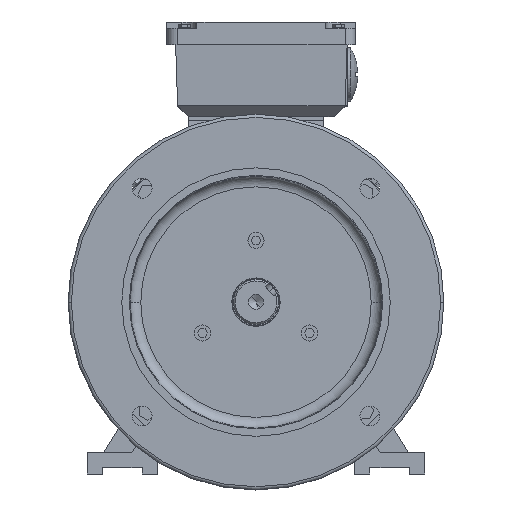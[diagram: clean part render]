
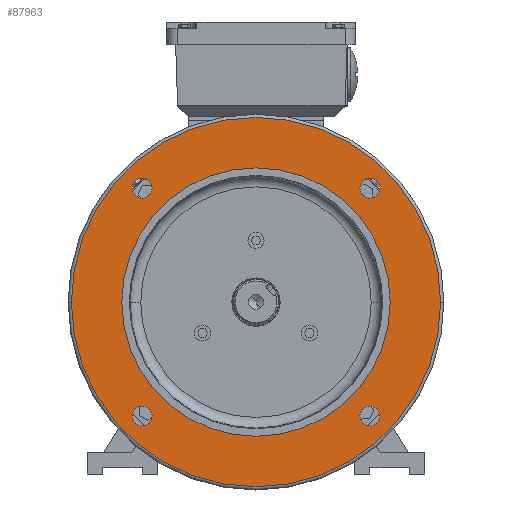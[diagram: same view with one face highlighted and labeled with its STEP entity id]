
A CAD part, top view. The second image highlights one B-rep face of the part: STEP entity #87963.
In plain terms, the highlighted planar face has unit normal (0, 0, 1).
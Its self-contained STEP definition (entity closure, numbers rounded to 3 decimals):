
#6909 = AXIS2_PLACEMENT_3D ( 'NONE', #114825, #114808, #114829 ) ;
#11077 = CIRCLE ( 'NONE', #48855, 172. ) ;
#11094 = CIRCLE ( 'NONE', #48872, 9.25 ) ;
#11097 = CIRCLE ( 'NONE', #48876, 9.25 ) ;
#11108 = CIRCLE ( 'NONE', #48880, 9.25 ) ;
#11118 = CIRCLE ( 'NONE', #48883, 9.25 ) ;
#11150 = CIRCLE ( 'NONE', #48894, 125. ) ;
#11400 = CARTESIAN_POINT ( 'NONE',  ( -106.066, 106.066, 17. ) ) ;
#11402 = DIRECTION ( 'NONE',  ( 0., 0., 1. ) ) ;
#11405 = DIRECTION ( 'NONE',  ( 1., 0., 0. ) ) ;
#11411 = CARTESIAN_POINT ( 'NONE',  ( -106.066, -106.066, 17. ) ) ;
#11414 = DIRECTION ( 'NONE',  ( 0., 0., 1. ) ) ;
#11416 = DIRECTION ( 'NONE',  ( 1., 0., 0. ) ) ;
#11421 = CARTESIAN_POINT ( 'NONE',  ( 106.066, -106.066, 17. ) ) ;
#11423 = DIRECTION ( 'NONE',  ( 0., 0., 1. ) ) ;
#11426 = DIRECTION ( 'NONE',  ( 1., 0., 0. ) ) ;
#11432 = CARTESIAN_POINT ( 'NONE',  ( 106.066, 106.066, 17. ) ) ;
#11434 = DIRECTION ( 'NONE',  ( 0., 0., 1. ) ) ;
#11437 = DIRECTION ( 'NONE',  ( 1., 0., 0. ) ) ;
#14331 = CARTESIAN_POINT ( 'NONE',  ( 0., 0., 17. ) ) ;
#14332 = DIRECTION ( 'NONE',  ( 0., 0., 1. ) ) ;
#14333 = DIRECTION ( 'NONE',  ( 1., 0., 0. ) ) ;
#14334 = CARTESIAN_POINT ( 'NONE',  ( 0., 0., 17. ) ) ;
#14335 = DIRECTION ( 'NONE',  ( 0., 0., 1. ) ) ;
#14336 = DIRECTION ( 'NONE',  ( -1., 0., 0. ) ) ;
#24330 = CARTESIAN_POINT ( 'NONE',  ( -96.816, -106.066, 17. ) ) ;
#26152 = CIRCLE ( 'NONE', #48698, 172. ) ;
#26153 = CIRCLE ( 'NONE', #48697, 125. ) ;
#26154 = CIRCLE ( 'NONE', #48699, 9.25 ) ;
#26155 = CIRCLE ( 'NONE', #48700, 9.25 ) ;
#26156 = CIRCLE ( 'NONE', #48701, 9.25 ) ;
#26157 = CIRCLE ( 'NONE', #48702, 9.25 ) ;
#27738 = CARTESIAN_POINT ( 'NONE',  ( 96.816, -106.066, 17. ) ) ;
#28159 = CARTESIAN_POINT ( 'NONE',  ( -125., 0., 17. ) ) ;
#28230 = CARTESIAN_POINT ( 'NONE',  ( 115.316, 106.066, 17. ) ) ;
#28304 = CARTESIAN_POINT ( 'NONE',  ( 96.816, 106.066, 17. ) ) ;
#28403 = CARTESIAN_POINT ( 'NONE',  ( -115.316, -106.066, 17. ) ) ;
#28417 = CARTESIAN_POINT ( 'NONE',  ( -115.316, 106.066, 17. ) ) ;
#37051 = CARTESIAN_POINT ( 'NONE',  ( 115.316, -106.066, 17. ) ) ;
#37625 = CARTESIAN_POINT ( 'NONE',  ( -96.816, 106.066, 17. ) ) ;
#41032 = EDGE_LOOP ( 'NONE', ( #114147, #114151 ) ) ;
#41034 = EDGE_LOOP ( 'NONE', ( #114130, #114134 ) ) ;
#41038 = EDGE_LOOP ( 'NONE', ( #114139, #114142 ) ) ;
#41041 = EDGE_LOOP ( 'NONE', ( #114121, #114124 ) ) ;
#41043 = EDGE_LOOP ( 'NONE', ( #114158, #114162 ) ) ;
#41091 = EDGE_LOOP ( 'NONE', ( #114111, #114115 ) ) ;
#45369 = VERTEX_POINT ( 'NONE', #59765 ) ;
#45412 = VERTEX_POINT ( 'NONE', #59682 ) ;
#45478 = VERTEX_POINT ( 'NONE', #59591 ) ;
#48697 = AXIS2_PLACEMENT_3D ( 'NONE', #14331, #14332, #14333 ) ;
#48698 = AXIS2_PLACEMENT_3D ( 'NONE', #14334, #14335, #14336 ) ;
#48699 = AXIS2_PLACEMENT_3D ( 'NONE', #11400, #11402, #11405 ) ;
#48700 = AXIS2_PLACEMENT_3D ( 'NONE', #11411, #11414, #11416 ) ;
#48701 = AXIS2_PLACEMENT_3D ( 'NONE', #11421, #11423, #11426 ) ;
#48702 = AXIS2_PLACEMENT_3D ( 'NONE', #11432, #11434, #11437 ) ;
#48855 = AXIS2_PLACEMENT_3D ( 'NONE', #80825, #80827, #80829 ) ;
#48872 = AXIS2_PLACEMENT_3D ( 'NONE', #80925, #80928, #80931 ) ;
#48876 = AXIS2_PLACEMENT_3D ( 'NONE', #80967, #80970, #80973 ) ;
#48880 = AXIS2_PLACEMENT_3D ( 'NONE', #81009, #81012, #81015 ) ;
#48883 = AXIS2_PLACEMENT_3D ( 'NONE', #81049, #81052, #81055 ) ;
#48894 = AXIS2_PLACEMENT_3D ( 'NONE', #81153, #81156, #81159 ) ;
#55876 = VERTEX_POINT ( 'NONE', #37625 ) ;
#55989 = VERTEX_POINT ( 'NONE', #37051 ) ;
#56048 = VERTEX_POINT ( 'NONE', #27738 ) ;
#56112 = VERTEX_POINT ( 'NONE', #24330 ) ;
#56285 = VERTEX_POINT ( 'NONE', #28159 ) ;
#56335 = VERTEX_POINT ( 'NONE', #28230 ) ;
#56376 = VERTEX_POINT ( 'NONE', #28304 ) ;
#56474 = VERTEX_POINT ( 'NONE', #28403 ) ;
#56489 = VERTEX_POINT ( 'NONE', #28417 ) ;
#59591 = CARTESIAN_POINT ( 'NONE',  ( 125., 0., 17. ) ) ;
#59682 = CARTESIAN_POINT ( 'NONE',  ( 172., 0., 17. ) ) ;
#59765 = CARTESIAN_POINT ( 'NONE',  ( -172., 0., 17. ) ) ;
#59989 = FACE_BOUND ( 'NONE', #41034, .T. ) ;
#59997 = FACE_BOUND ( 'NONE', #41038, .T. ) ;
#60005 = FACE_BOUND ( 'NONE', #41091, .T. ) ;
#60006 = FACE_BOUND ( 'NONE', #41032, .T. ) ;
#60010 = FACE_OUTER_BOUND ( 'NONE', #41041, .T. ) ;
#60012 = FACE_BOUND ( 'NONE', #41043, .T. ) ;
#71461 = EDGE_CURVE ( 'NONE', #56285, #45478, #26153, .T. ) ;
#71462 = EDGE_CURVE ( 'NONE', #45369, #45412, #26152, .T. ) ;
#71463 = EDGE_CURVE ( 'NONE', #55876, #56489, #26154, .T. ) ;
#71464 = EDGE_CURVE ( 'NONE', #56112, #56474, #26155, .T. ) ;
#71465 = EDGE_CURVE ( 'NONE', #55989, #56048, #26156, .T. ) ;
#71466 = EDGE_CURVE ( 'NONE', #56335, #56376, #26157, .T. ) ;
#74184 = EDGE_CURVE ( 'NONE', #45412, #45369, #11077, .T. ) ;
#74207 = EDGE_CURVE ( 'NONE', #56489, #55876, #11094, .T. ) ;
#74216 = EDGE_CURVE ( 'NONE', #56474, #56112, #11097, .T. ) ;
#74226 = EDGE_CURVE ( 'NONE', #56048, #55989, #11108, .T. ) ;
#74235 = EDGE_CURVE ( 'NONE', #56376, #56335, #11118, .T. ) ;
#74256 = EDGE_CURVE ( 'NONE', #45478, #56285, #11150, .T. ) ;
#80825 = CARTESIAN_POINT ( 'NONE',  ( 0., 0., 17. ) ) ;
#80827 = DIRECTION ( 'NONE',  ( 0., 0., 1. ) ) ;
#80829 = DIRECTION ( 'NONE',  ( -1., 0., 0. ) ) ;
#80925 = CARTESIAN_POINT ( 'NONE',  ( -106.066, 106.066, 17. ) ) ;
#80928 = DIRECTION ( 'NONE',  ( 0., 0., 1. ) ) ;
#80931 = DIRECTION ( 'NONE',  ( 1., 0., 0. ) ) ;
#80967 = CARTESIAN_POINT ( 'NONE',  ( -106.066, -106.066, 17. ) ) ;
#80970 = DIRECTION ( 'NONE',  ( 0., 0., 1. ) ) ;
#80973 = DIRECTION ( 'NONE',  ( 1., 0., 0. ) ) ;
#81009 = CARTESIAN_POINT ( 'NONE',  ( 106.066, -106.066, 17. ) ) ;
#81012 = DIRECTION ( 'NONE',  ( 0., 0., 1. ) ) ;
#81015 = DIRECTION ( 'NONE',  ( 1., 0., 0. ) ) ;
#81049 = CARTESIAN_POINT ( 'NONE',  ( 106.066, 106.066, 17. ) ) ;
#81052 = DIRECTION ( 'NONE',  ( 0., 0., 1. ) ) ;
#81055 = DIRECTION ( 'NONE',  ( 1., 0., 0. ) ) ;
#81153 = CARTESIAN_POINT ( 'NONE',  ( 0., 0., 17. ) ) ;
#81156 = DIRECTION ( 'NONE',  ( 0., 0., 1. ) ) ;
#81159 = DIRECTION ( 'NONE',  ( 1., 0., 0. ) ) ;
#87963 = ADVANCED_FACE ( 'NONE', ( #60005, #60010, #59989, #59997, #60006, #60012 ), #114821, .F. ) ;
#114111 = ORIENTED_EDGE ( 'NONE', *, *, #74256, .F. ) ;
#114115 = ORIENTED_EDGE ( 'NONE', *, *, #71461, .F. ) ;
#114121 = ORIENTED_EDGE ( 'NONE', *, *, #71462, .T. ) ;
#114124 = ORIENTED_EDGE ( 'NONE', *, *, #74184, .T. ) ;
#114130 = ORIENTED_EDGE ( 'NONE', *, *, #71463, .F. ) ;
#114134 = ORIENTED_EDGE ( 'NONE', *, *, #74207, .F. ) ;
#114139 = ORIENTED_EDGE ( 'NONE', *, *, #71464, .F. ) ;
#114142 = ORIENTED_EDGE ( 'NONE', *, *, #74216, .F. ) ;
#114147 = ORIENTED_EDGE ( 'NONE', *, *, #71465, .F. ) ;
#114151 = ORIENTED_EDGE ( 'NONE', *, *, #74226, .F. ) ;
#114158 = ORIENTED_EDGE ( 'NONE', *, *, #71466, .F. ) ;
#114162 = ORIENTED_EDGE ( 'NONE', *, *, #74235, .F. ) ;
#114808 = DIRECTION ( 'NONE',  ( 0., 0., -1. ) ) ;
#114821 = PLANE ( 'NONE',  #6909 ) ;
#114825 = CARTESIAN_POINT ( 'NONE',  ( 0., 175., 17. ) ) ;
#114829 = DIRECTION ( 'NONE',  ( -1., 0., 0. ) ) ;
